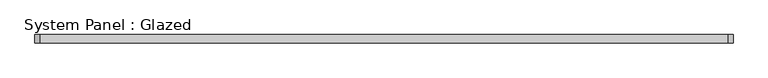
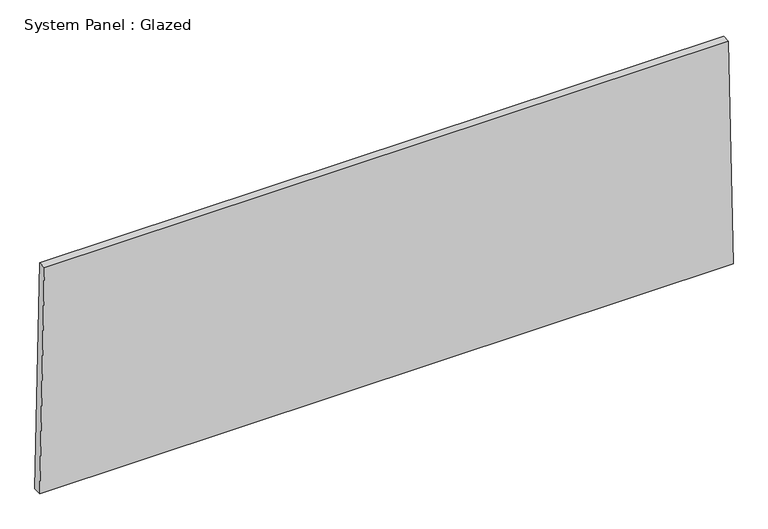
"""IFC4 building model written with IfcOpenShell, lengths in millimetres: plate geometry, System Panel : Glazed."""

import ifcopenshell
import ifcopenshell.guid

model = None  # the IFC model being written
_history = None  # IfcOwnerHistory: only IFC2X3 demands one
_inside = {}  # id of a spatial element -> (the spatial element, [elements in it])
_under = {}  # id of a project, library or spatial element -> (it, [spatial elements below it])
_declared = {}  # id of a project -> (the project, [libraries it declares])
_typed = {}  # id of a type object -> (the type object, [elements of that type])
_made_of = {}  # id of a material, layer set ... -> (it, [elements and type objects made of it])


def new_model(schema):
    """Start an empty IFC model of exactly this schema.

    Asked for "IFC4X3", IfcOpenShell would pick the latest addendum, in which some entities
    have other attributes; the version numbers below select the first issue.
    IFC2X3 requires an IfcOwnerHistory on every rooted entity: one is made here for all.
    """
    global model, _history
    if schema == "IFC4X3":
        model = ifcopenshell.file(schema_version=(4, 3, 0, 0))
    else:
        model = ifcopenshell.file(schema=schema)
    _inside.clear()
    _under.clear()
    _declared.clear()
    _typed.clear()
    _made_of.clear()
    _history = None
    if model.schema == "IFC2X3":
        org = make("IfcOrganization", Name="unknown")
        user = make(
            "IfcPersonAndOrganization",
            ThePerson=make("IfcPerson", FamilyName="unknown"),
            TheOrganization=org,
        )
        app = make(
            "IfcApplication",
            ApplicationDeveloper=org,
            Version="unknown",
            ApplicationFullName="unknown",
            ApplicationIdentifier="unknown",
        )
        _history = make(
            "IfcOwnerHistory",
            OwningUser=user,
            OwningApplication=app,
            ChangeAction="ADDED",
            CreationDate=0,
        )
    return model


def make(cls, **values):
    """One entity of the class cls with the attributes given. An attribute that is None is left unset."""
    return model.create_entity(
        cls, **{name: value for name, value in values.items() if value is not None}
    )


def rooted(cls, **values):
    """An entity with a GlobalId (a new one), such as an element, a storey or a relation."""
    return make(cls, GlobalId=ifcopenshell.guid.new(), OwnerHistory=_history, **values)


def si_unit(unit_type, name, prefix=None):
    """IfcSIUnit, for example si_unit("LENGTHUNIT", "METRE", prefix="MILLI")."""
    return make("IfcSIUnit", UnitType=unit_type, Prefix=prefix, Name=name)


def assignment(units):
    """IfcUnitAssignment: the units of a project."""
    return None if units is None else make("IfcUnitAssignment", Units=units)


def point(xyz):
    """IfcCartesianPoint."""
    return None if xyz is None else make("IfcCartesianPoint", Coordinates=xyz)


def direction(xyz):
    """IfcDirection."""
    return None if xyz is None else make("IfcDirection", DirectionRatios=xyz)


def frame(location, z_axis=None, x_axis=None):
    """IfcAxis2Placement3D, a coordinate frame: its origin and axes. An axis left out is left unset."""
    return make(
        "IfcAxis2Placement3D",
        Location=point(location),
        Axis=direction(z_axis),
        RefDirection=direction(x_axis),
    )


def origin():
    """The frame at (0, 0, 0) with its axes left unset."""
    return frame((0.0, 0.0, 0.0))


def place(relative_to, where):
    """IfcLocalPlacement: puts the frame where relative to a parent placement (None: the world)."""
    return make(
        "IfcLocalPlacement", PlacementRelTo=relative_to, RelativePlacement=where
    )


def context(
    kind, dimensions, precision=None, world=None, true_north=None, identifier=None
):
    """IfcGeometricRepresentationContext, for example the 3D "Model" context."""
    return make(
        "IfcGeometricRepresentationContext",
        ContextIdentifier=identifier,
        ContextType=kind,
        CoordinateSpaceDimension=dimensions,
        Precision=precision,
        WorldCoordinateSystem=world,
        TrueNorth=true_north,
    )


def project(units=None, contexts=None):
    """IfcProject with its units and contexts."""
    return rooted(
        "IfcProject",
        Name="project",
        RepresentationContexts=contexts,
        UnitsInContext=assignment(units),
    )


def spatial(cls, under=None, at=None, **own):
    """A site, building, storey or space (cls), placed at a placement, below another one or the project."""
    s = rooted(cls, ObjectPlacement=at, **own)
    if under is not None:
        _under.setdefault(under.id(), (under, []))[1].append(s)
    return s


def polyline(points):
    """IfcPolyline through the points."""
    return make("IfcPolyline", Points=[point(p) for p in points])


def outline(outer, holes=None, kind="AREA"):
    """IfcArbitraryClosedProfileDef: a profile drawn as a closed curve; with holes, ...WithVoids."""
    if holes is None:
        return make("IfcArbitraryClosedProfileDef", ProfileType=kind, OuterCurve=outer)
    return make(
        "IfcArbitraryProfileDefWithVoids",
        ProfileType=kind,
        OuterCurve=outer,
        InnerCurves=holes,
    )


def extrude(swept, where, along, depth):
    """IfcExtrudedAreaSolid: the profile swept, set in the frame where, extruded along a direction by depth."""
    return make(
        "IfcExtrudedAreaSolid",
        SweptArea=swept,
        Position=where,
        ExtrudedDirection=direction(along),
        Depth=depth,
    )


def shape(context_of_items, identifier, shape_type, items):
    """IfcShapeRepresentation: the items that make up one representation, for example the "Body"."""
    return make(
        "IfcShapeRepresentation",
        ContextOfItems=context_of_items,
        RepresentationIdentifier=identifier,
        RepresentationType=shape_type,
        Items=items,
    )


def source(mapping_origin, context_of_items, identifier, shape_type, items):
    """IfcRepresentationMap: a shape defined once, which mapped items show again and again."""
    return make(
        "IfcRepresentationMap",
        MappingOrigin=mapping_origin,
        MappedRepresentation=shape(context_of_items, identifier, shape_type, items),
    )


def transform(
    local_origin,
    x_axis=None,
    y_axis=None,
    z_axis=None,
    scale=None,
    scale2=None,
    scale3=None,
    uniform=True,
):
    """IfcCartesianTransformationOperator3D, or its non-uniform kind. x_axis, y_axis, z_axis: its Axis1, 2, 3."""
    if uniform:
        return make(
            "IfcCartesianTransformationOperator3D",
            Axis1=direction(x_axis),
            Axis2=direction(y_axis),
            LocalOrigin=point(local_origin),
            Scale=scale,
            Axis3=direction(z_axis),
        )
    return make(
        "IfcCartesianTransformationOperator3DnonUniform",
        Axis1=direction(x_axis),
        Axis2=direction(y_axis),
        LocalOrigin=point(local_origin),
        Scale=scale,
        Axis3=direction(z_axis),
        Scale2=scale2,
        Scale3=scale3,
    )


def mapped(mapping_source, mapping_target):
    """IfcMappedItem: shows the shape of a source again, moved by a transform."""
    return make(
        "IfcMappedItem", MappingSource=mapping_source, MappingTarget=mapping_target
    )


def made_of(thing, what):
    """Note that an element or type object is made of a material, layer set ...; save() writes the relation."""
    if what is not None:
        _made_of.setdefault(what.id(), (what, []))[1].append(thing)
    return thing


def element(
    cls,
    number,
    at=None,
    inside=None,
    cuts=None,
    type_object=None,
    material=None,
    context=None,
    identifier="Body",
    shape_type=None,
    held_by="IfcProductDefinitionShape",
    body=None,
    shapes=None,
    **own,
):
    """One element of the class cls, such as IfcWall. Its Tag is "e" and its number.

    at: its placement. inside: the storey or other place that contains it. cuts: it is an
    opening in that element (IfcRelVoidsElement). A single representation is given by context,
    identifier, shape_type and body (its items); several are given by shapes. held_by: the class
    of the entity that holds the representations. save() writes the other relations.
    """
    e = rooted(cls, Tag="e%d" % number, ObjectPlacement=at, **own)
    if body is not None:
        shapes = [shape(context, identifier, shape_type, body)]
    if shapes is not None:
        e.Representation = make(held_by, Representations=shapes)
    if inside is not None:
        _inside.setdefault(inside.id(), (inside, []))[1].append(e)
    if cuts is not None:
        rooted(
            "IfcRelVoidsElement", RelatingBuildingElement=cuts, RelatedOpeningElement=e
        )
    if type_object is not None:
        _typed.setdefault(type_object.id(), (type_object, []))[1].append(e)
    return made_of(e, material)


def aggregate(whole, parts):
    """IfcRelAggregates: a whole, such as a stair, and the parts it consists of."""
    return rooted("IfcRelAggregates", RelatingObject=whole, RelatedObjects=parts)


def save(model, path):
    """Write the relations noted so far, then the file.

    IfcRelAggregates (storeys below a building ...), IfcRelContainedInSpatialStructure (elements
    in a storey), IfcRelDefinesByType, IfcRelAssociatesMaterial and IfcRelDeclares: one each for
    every whole, place, type object, material and project.
    """
    for whole, parts in _under.values():
        aggregate(whole, parts)
    for where, things in _inside.values():
        rooted(
            "IfcRelContainedInSpatialStructure",
            RelatedElements=things,
            RelatingStructure=where,
        )
    for kind, things in _typed.values():
        rooted("IfcRelDefinesByType", RelatedObjects=things, RelatingType=kind)
    for what, things in _made_of.values():
        rooted("IfcRelAssociatesMaterial", RelatedObjects=things, RelatingMaterial=what)
    for by, libraries in _declared.values():
        rooted("IfcRelDeclares", RelatingContext=by, RelatedDefinitions=libraries)
    model.write(path)


def system_panel_glazed_8f517b17(model_context):
    return source(origin(), model_context, "Body", "SweptSolid", [
        extrude(outline(polyline([(0.0, -1058.0780593), (0.0, 1058.0780593), (723.7529951, 1043.8594649), (723.7529951, -1043.8594649), (0.0, -1058.0780593)])), frame((0.0, 19.05, 0.0), z_axis=(0.0, 1.0, 0.0), x_axis=(0.0, 0.0, 1.0)), (0.0, 0.0, 1.0), 25.4),
    ])


if __name__ == "__main__":
    model = new_model("IFC4")
    model_context = context("Model", 3, world=origin())
    ifc_project = project(units=[si_unit("LENGTHUNIT", "METRE", prefix="MILLI")], contexts=[model_context])
    site = spatial("IfcSite", under=ifc_project)
    building = spatial("IfcBuilding", under=site)
    placement = place(None, origin())
    system_panel_glazed_shape = system_panel_glazed_8f517b17(model_context)
    element("IfcPlate", 1, ObjectType="System Panel : Glazed", at=placement, inside=building, context=model_context, shape_type="MappedRepresentation", body=[
        mapped(system_panel_glazed_shape, transform((0.0, 0.0, 0.0), x_axis=(1.0, 0.0, 0.0), y_axis=(0.0, 1.0, 0.0), z_axis=(0.0, 0.0, 1.0))),
    ])
    save(model, "model.ifc")
